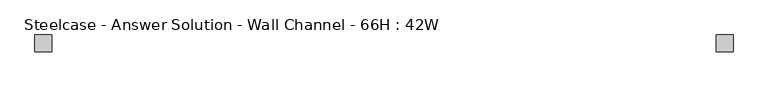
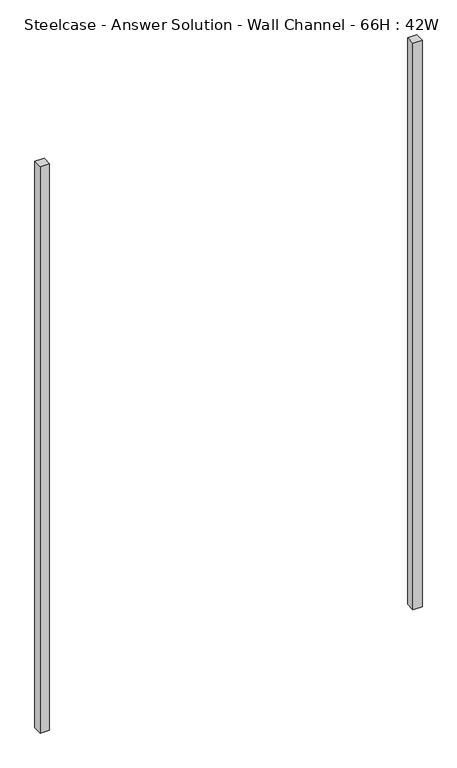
"""IFC4 building model written with IfcOpenShell, lengths in millimetres: furniture geometry, Steelcase - Answer Solution - Wall Channel - 66H : 42W."""

from ifc_helpers import new_model, si_unit, origin, origin_with_axes, place, context, project, spatial, polyline, outline, extrude, source, transform, mapped, element, save


def steelcase_answer_solution_wall_channel_66h_42w_ae999c96(model_context):
    return source(origin(), model_context, "Body", "SweptSolid", [
        extrude(outline(polyline([(1041.4, 0.0), (1066.8, 0.0), (1066.8, -25.4), (1041.4, -25.4), (1041.4, 0.0)])), origin_with_axes(), (0.0, 0.0, 1.0), 1673.225),
        extrude(outline(polyline([(25.4, 0.0), (25.4, -25.4), (0.0, -25.4), (0.0, 0.0), (25.4, 0.0)])), origin_with_axes(), (0.0, 0.0, 1.0), 1673.225),
    ])


if __name__ == "__main__":
    model = new_model("IFC4")
    model_context = context("Model", 3, world=origin())
    ifc_project = project(units=[si_unit("LENGTHUNIT", "METRE", prefix="MILLI")], contexts=[model_context])
    site = spatial("IfcSite", under=ifc_project)
    building = spatial("IfcBuilding", under=site)
    placement = place(None, origin())
    steelcase_answer_solution_wall_channel_66h_42w_shape = steelcase_answer_solution_wall_channel_66h_42w_ae999c96(model_context)
    element("IfcFurniture", 1, ObjectType="Steelcase - Answer Solution - Wall Channel - 66H : 42W", at=placement, inside=building, context=model_context, shape_type="MappedRepresentation", body=[
        mapped(steelcase_answer_solution_wall_channel_66h_42w_shape, transform((0.0, 0.0, 0.0), x_axis=(1.0, 0.0, 0.0), y_axis=(0.0, 1.0, 0.0), z_axis=(0.0, 0.0, 1.0))),
    ])
    save(model, "model.ifc")
